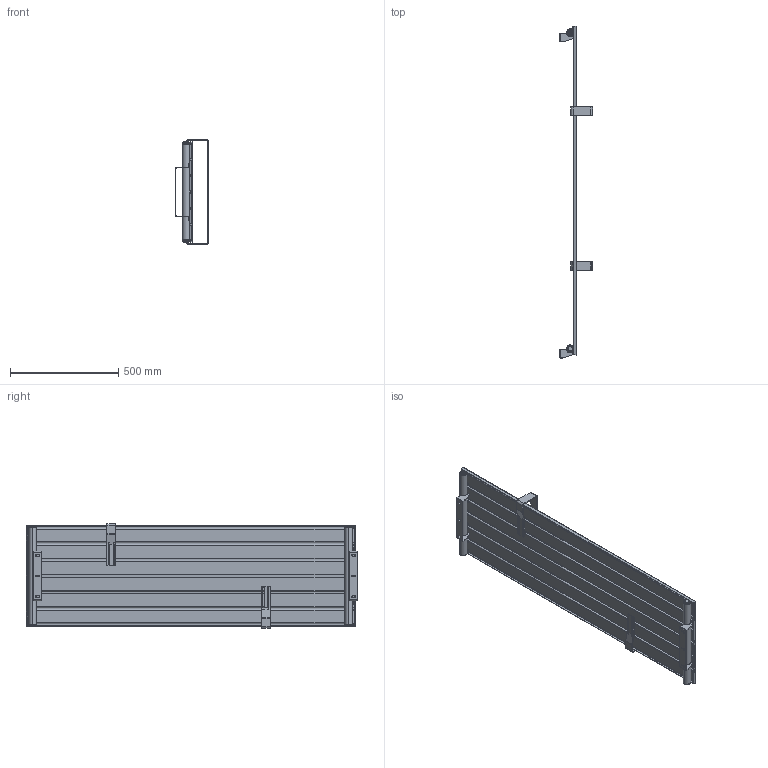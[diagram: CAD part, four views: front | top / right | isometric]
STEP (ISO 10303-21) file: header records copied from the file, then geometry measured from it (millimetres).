
FILE_DESCRIPTION (( 'STEP AP203' ), '1' );
FILE_NAME ('FICERT.STEP', '2026-03-04T09:30:00', ( '' ), ( '' ), 'SwSTEP 2.0', 'SolidWorks 2025', '' );
FILE_SCHEMA (( 'CONFIG_CONTROL_DESIGN' ));
Length unit declared in the file: millimetre
Products named in the file (8): TRAVERSINO PIATTO 70 [Con configurazioni]_1510; FICERT; Barra Ice Short [Con configurazioni]_SINGLE 400; STAFFA 2025 [Con configurazioni]_PICCHIO S (3 EL); tappo_sfiato.prt; tappo_sx.prt; COLLETTORE INT 75 [Con configurazioni]_455; PIASTRA ICE VERTICAL
Assembly tree (17 placements, depth 2):
  FICERT
    COLLETTORE INT 75 [Con configurazioni]_455  x2
    TRAVERSINO PIATTO 70 [Con configurazioni]_1510  x6
    PIASTRA ICE VERTICAL
    tappo_sx.prt  x2
    tappo_sfiato.prt  x2
    STAFFA 2025 [Con configurazioni]_PICCHIO S (3 EL)  x2
    Barra Ice Short [Con configurazioni]_SINGLE 400  x2
Bounding box: 152.5 x 1533.11 x 485.01 mm (x, y, z)
Volume: 3985132.9 mm3; surface area: 4591643.6 mm2
Topology: 13 solids, 21 shells, 1100 faces, 2952 edges, 1858 vertices
Faces by surface type: plane 492, cylinder 362, cone 100, bspline 98, torus 48
Entity records: 24505 total; most frequent: CARTESIAN_POINT 13495, ORIENTED_EDGE 2308, DIRECTION 1692, EDGE_CURVE 1158, VERTEX_POINT 725, AXIS2_PLACEMENT_3D 617, B_SPLINE_CURVE_WITH_KNOTS 467, EDGE_LOOP 464
